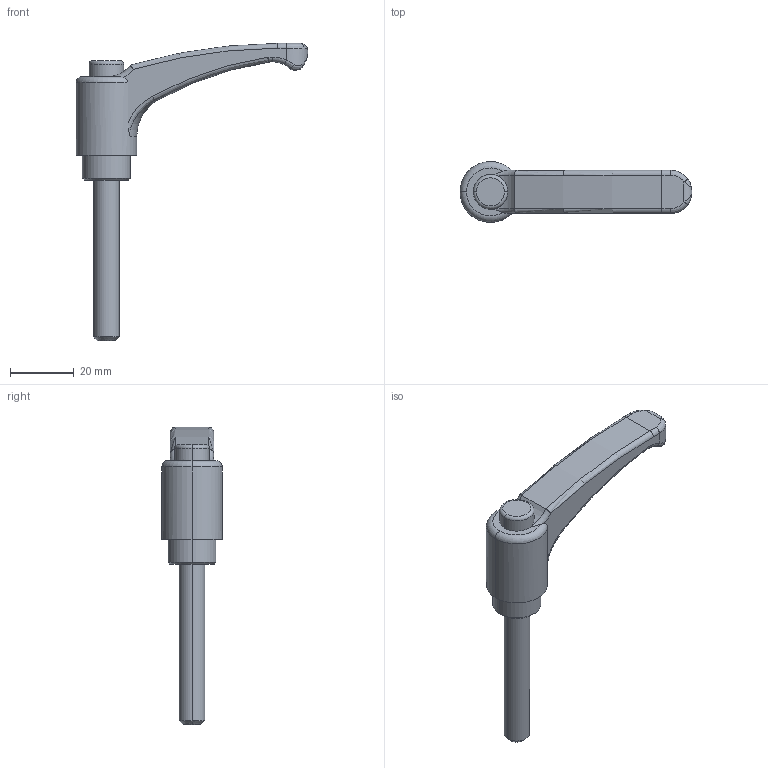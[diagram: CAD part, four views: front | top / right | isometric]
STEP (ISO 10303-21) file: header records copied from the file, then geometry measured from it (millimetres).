
FILE_DESCRIPTION (( 'STEP AP203' ), '1' );
FILE_NAME ('eal63ax50-sus.STEP', '2021-10-25T01:39:01', ( '' ), ( '' ), 'SwSTEP 2.0', 'SolidWorks 2020', '' );
FILE_SCHEMA (( 'CONFIG_CONTROL_DESIGN' ));
Length unit declared in the file: millimetre
Products named in the file (1): eal63ax50-sus
Bounding box: 72.5 x 19 x 93 mm (x, y, z)
Volume: 17999.2 mm3; surface area: 6011.7 mm2
Topology: 1 solids, 1 shells, 66 faces, 154 edges, 94 vertices
Faces by surface type: cylinder 19, torus 18, bspline 14, plane 11, cone 4
Entity records: 2900 total; most frequent: CARTESIAN_POINT 1437, ORIENTED_EDGE 308, DIRECTION 271, EDGE_CURVE 154, AXIS2_PLACEMENT_3D 122, VERTEX_POINT 94, EDGE_LOOP 70, CIRCLE 69
